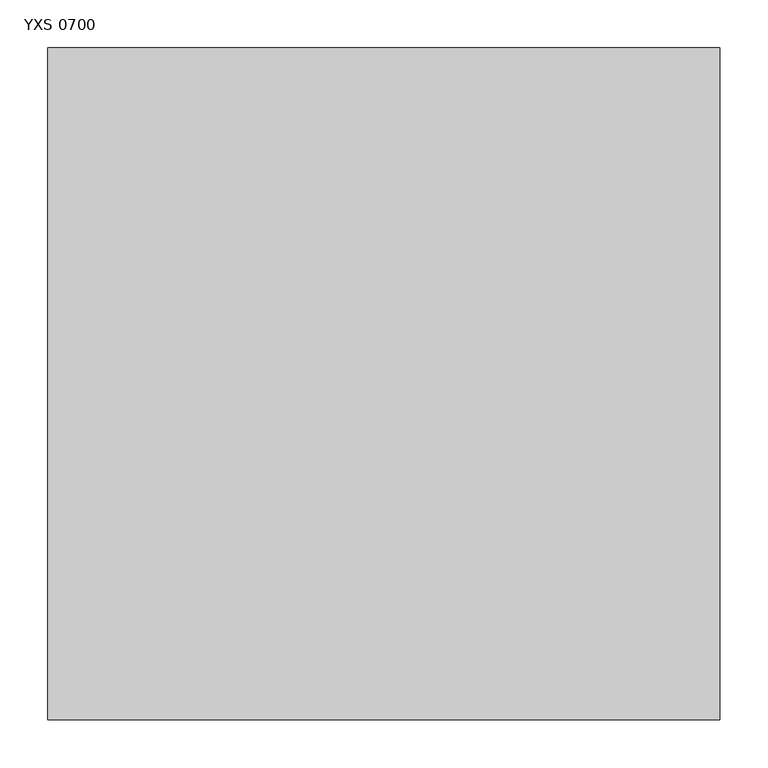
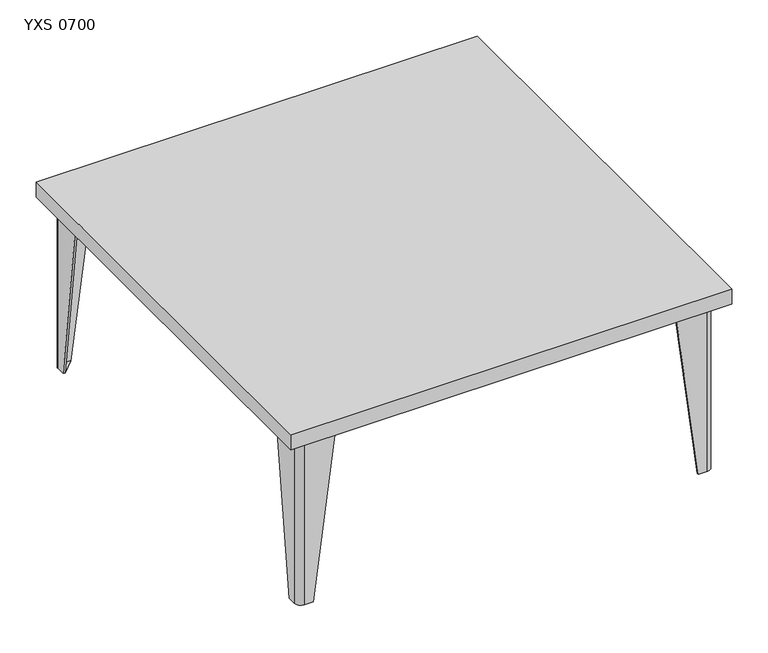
"""IFC4 building model written with IfcOpenShell, lengths in millimetres: furniture geometry, Mobiliário_Mobiliário de Escritório_LinhaYoung_Mesa Baixa YXS 0700_Marelli : YXS 0700."""

import ifcopenshell
import ifcopenshell.guid

model = None  # the IFC model being written
_history = None  # IfcOwnerHistory: only IFC2X3 demands one
_inside = {}  # id of a spatial element -> (the spatial element, [elements in it])
_under = {}  # id of a project, library or spatial element -> (it, [spatial elements below it])
_declared = {}  # id of a project -> (the project, [libraries it declares])
_typed = {}  # id of a type object -> (the type object, [elements of that type])
_made_of = {}  # id of a material, layer set ... -> (it, [elements and type objects made of it])


def new_model(schema):
    """Start an empty IFC model of exactly this schema.

    Asked for "IFC4X3", IfcOpenShell would pick the latest addendum, in which some entities
    have other attributes; the version numbers below select the first issue.
    IFC2X3 requires an IfcOwnerHistory on every rooted entity: one is made here for all.
    """
    global model, _history
    if schema == "IFC4X3":
        model = ifcopenshell.file(schema_version=(4, 3, 0, 0))
    else:
        model = ifcopenshell.file(schema=schema)
    _inside.clear()
    _under.clear()
    _declared.clear()
    _typed.clear()
    _made_of.clear()
    _history = None
    if model.schema == "IFC2X3":
        org = make("IfcOrganization", Name="unknown")
        user = make(
            "IfcPersonAndOrganization",
            ThePerson=make("IfcPerson", FamilyName="unknown"),
            TheOrganization=org,
        )
        app = make(
            "IfcApplication",
            ApplicationDeveloper=org,
            Version="unknown",
            ApplicationFullName="unknown",
            ApplicationIdentifier="unknown",
        )
        _history = make(
            "IfcOwnerHistory",
            OwningUser=user,
            OwningApplication=app,
            ChangeAction="ADDED",
            CreationDate=0,
        )
    return model


def make(cls, **values):
    """One entity of the class cls with the attributes given. An attribute that is None is left unset."""
    return model.create_entity(
        cls, **{name: value for name, value in values.items() if value is not None}
    )


def rooted(cls, **values):
    """An entity with a GlobalId (a new one), such as an element, a storey or a relation."""
    return make(cls, GlobalId=ifcopenshell.guid.new(), OwnerHistory=_history, **values)


def si_unit(unit_type, name, prefix=None):
    """IfcSIUnit, for example si_unit("LENGTHUNIT", "METRE", prefix="MILLI")."""
    return make("IfcSIUnit", UnitType=unit_type, Prefix=prefix, Name=name)


def assignment(units):
    """IfcUnitAssignment: the units of a project."""
    return None if units is None else make("IfcUnitAssignment", Units=units)


def point(xyz):
    """IfcCartesianPoint."""
    return None if xyz is None else make("IfcCartesianPoint", Coordinates=xyz)


def direction(xyz):
    """IfcDirection."""
    return None if xyz is None else make("IfcDirection", DirectionRatios=xyz)


def frame(location, z_axis=None, x_axis=None):
    """IfcAxis2Placement3D, a coordinate frame: its origin and axes. An axis left out is left unset."""
    return make(
        "IfcAxis2Placement3D",
        Location=point(location),
        Axis=direction(z_axis),
        RefDirection=direction(x_axis),
    )


def frame_2d(location, x_axis=None):
    """IfcAxis2Placement2D, a coordinate frame in the plane: its origin and x axis."""
    return make(
        "IfcAxis2Placement2D", Location=point(location), RefDirection=direction(x_axis)
    )


def origin():
    """The frame at (0, 0, 0) with its axes left unset."""
    return frame((0.0, 0.0, 0.0))


def origin_with_axes():
    """The frame at (0, 0, 0) with the z axis (0, 0, 1) and the x axis (1, 0, 0) written out."""
    return frame((0.0, 0.0, 0.0), z_axis=(0.0, 0.0, 1.0), x_axis=(1.0, 0.0, 0.0))


def place(relative_to, where):
    """IfcLocalPlacement: puts the frame where relative to a parent placement (None: the world)."""
    return make(
        "IfcLocalPlacement", PlacementRelTo=relative_to, RelativePlacement=where
    )


def context(
    kind, dimensions, precision=None, world=None, true_north=None, identifier=None
):
    """IfcGeometricRepresentationContext, for example the 3D "Model" context."""
    return make(
        "IfcGeometricRepresentationContext",
        ContextIdentifier=identifier,
        ContextType=kind,
        CoordinateSpaceDimension=dimensions,
        Precision=precision,
        WorldCoordinateSystem=world,
        TrueNorth=true_north,
    )


def project(units=None, contexts=None):
    """IfcProject with its units and contexts."""
    return rooted(
        "IfcProject",
        Name="project",
        RepresentationContexts=contexts,
        UnitsInContext=assignment(units),
    )


def spatial(cls, under=None, at=None, **own):
    """A site, building, storey or space (cls), placed at a placement, below another one or the project."""
    s = rooted(cls, ObjectPlacement=at, **own)
    if under is not None:
        _under.setdefault(under.id(), (under, []))[1].append(s)
    return s


def polyline(points):
    """IfcPolyline through the points."""
    return make("IfcPolyline", Points=[point(p) for p in points])


def circle_curve(where, radius):
    """IfcCircle in the frame where."""
    return make("IfcCircle", Position=where, Radius=radius)


def trimmed(basis, trim1, trim2, sense, master):
    """IfcTrimmedCurve: the piece of a basis curve between two trims."""
    return make(
        "IfcTrimmedCurve",
        BasisCurve=basis,
        Trim1=trim1,
        Trim2=trim2,
        SenseAgreement=sense,
        MasterRepresentation=master,
    )


def segment(curve, same_sense, transition):
    """IfcCompositeCurveSegment."""
    return make(
        "IfcCompositeCurveSegment",
        Transition=transition,
        SameSense=same_sense,
        ParentCurve=curve,
    )


def composite_curve(segments, self_intersect=None):
    """IfcCompositeCurve: segments joined end to end."""
    return make("IfcCompositeCurve", Segments=segments, SelfIntersect=self_intersect)


def outline(outer, holes=None, kind="AREA"):
    """IfcArbitraryClosedProfileDef: a profile drawn as a closed curve; with holes, ...WithVoids."""
    if holes is None:
        return make("IfcArbitraryClosedProfileDef", ProfileType=kind, OuterCurve=outer)
    return make(
        "IfcArbitraryProfileDefWithVoids",
        ProfileType=kind,
        OuterCurve=outer,
        InnerCurves=holes,
    )


def extrude(swept, where, along, depth):
    """IfcExtrudedAreaSolid: the profile swept, set in the frame where, extruded along a direction by depth."""
    return make(
        "IfcExtrudedAreaSolid",
        SweptArea=swept,
        Position=where,
        ExtrudedDirection=direction(along),
        Depth=depth,
    )


def shape(context_of_items, identifier, shape_type, items):
    """IfcShapeRepresentation: the items that make up one representation, for example the "Body"."""
    return make(
        "IfcShapeRepresentation",
        ContextOfItems=context_of_items,
        RepresentationIdentifier=identifier,
        RepresentationType=shape_type,
        Items=items,
    )


def source(mapping_origin, context_of_items, identifier, shape_type, items):
    """IfcRepresentationMap: a shape defined once, which mapped items show again and again."""
    return make(
        "IfcRepresentationMap",
        MappingOrigin=mapping_origin,
        MappedRepresentation=shape(context_of_items, identifier, shape_type, items),
    )


def transform(
    local_origin,
    x_axis=None,
    y_axis=None,
    z_axis=None,
    scale=None,
    scale2=None,
    scale3=None,
    uniform=True,
):
    """IfcCartesianTransformationOperator3D, or its non-uniform kind. x_axis, y_axis, z_axis: its Axis1, 2, 3."""
    if uniform:
        return make(
            "IfcCartesianTransformationOperator3D",
            Axis1=direction(x_axis),
            Axis2=direction(y_axis),
            LocalOrigin=point(local_origin),
            Scale=scale,
            Axis3=direction(z_axis),
        )
    return make(
        "IfcCartesianTransformationOperator3DnonUniform",
        Axis1=direction(x_axis),
        Axis2=direction(y_axis),
        LocalOrigin=point(local_origin),
        Scale=scale,
        Axis3=direction(z_axis),
        Scale2=scale2,
        Scale3=scale3,
    )


def mapped(mapping_source, mapping_target):
    """IfcMappedItem: shows the shape of a source again, moved by a transform."""
    return make(
        "IfcMappedItem", MappingSource=mapping_source, MappingTarget=mapping_target
    )


def made_of(thing, what):
    """Note that an element or type object is made of a material, layer set ...; save() writes the relation."""
    if what is not None:
        _made_of.setdefault(what.id(), (what, []))[1].append(thing)
    return thing


def element(
    cls,
    number,
    at=None,
    inside=None,
    cuts=None,
    type_object=None,
    material=None,
    context=None,
    identifier="Body",
    shape_type=None,
    held_by="IfcProductDefinitionShape",
    body=None,
    shapes=None,
    **own,
):
    """One element of the class cls, such as IfcWall. Its Tag is "e" and its number.

    at: its placement. inside: the storey or other place that contains it. cuts: it is an
    opening in that element (IfcRelVoidsElement). A single representation is given by context,
    identifier, shape_type and body (its items); several are given by shapes. held_by: the class
    of the entity that holds the representations. save() writes the other relations.
    """
    e = rooted(cls, Tag="e%d" % number, ObjectPlacement=at, **own)
    if body is not None:
        shapes = [shape(context, identifier, shape_type, body)]
    if shapes is not None:
        e.Representation = make(held_by, Representations=shapes)
    if inside is not None:
        _inside.setdefault(inside.id(), (inside, []))[1].append(e)
    if cuts is not None:
        rooted(
            "IfcRelVoidsElement", RelatingBuildingElement=cuts, RelatedOpeningElement=e
        )
    if type_object is not None:
        _typed.setdefault(type_object.id(), (type_object, []))[1].append(e)
    return made_of(e, material)


def aggregate(whole, parts):
    """IfcRelAggregates: a whole, such as a stair, and the parts it consists of."""
    return rooted("IfcRelAggregates", RelatingObject=whole, RelatedObjects=parts)


def save(model, path):
    """Write the relations noted so far, then the file.

    IfcRelAggregates (storeys below a building ...), IfcRelContainedInSpatialStructure (elements
    in a storey), IfcRelDefinesByType, IfcRelAssociatesMaterial and IfcRelDeclares: one each for
    every whole, place, type object, material and project.
    """
    for whole, parts in _under.values():
        aggregate(whole, parts)
    for where, things in _inside.values():
        rooted(
            "IfcRelContainedInSpatialStructure",
            RelatedElements=things,
            RelatingStructure=where,
        )
    for kind, things in _typed.values():
        rooted("IfcRelDefinesByType", RelatedObjects=things, RelatingType=kind)
    for what, things in _made_of.values():
        rooted("IfcRelAssociatesMaterial", RelatedObjects=things, RelatingMaterial=what)
    for by, libraries in _declared.values():
        rooted("IfcRelDeclares", RelatingContext=by, RelatedDefinitions=libraries)
    model.write(path)


def plane_surface(at):
    """IfcPlane: the flat surface through the origin of the frame at, square to its z axis."""
    return make("IfcPlane", Position=at)


def cylinder_surface(at, radius):
    """IfcCylindricalSurface: all points at the distance radius from the z axis of the frame at."""
    return make("IfcCylindricalSurface", Position=at, Radius=radius)


def revolved_surface(curve, axis_point, axis_direction):
    """IfcSurfaceOfRevolution: the curve turned about the line through axis_point along axis_direction."""
    return make(
        "IfcSurfaceOfRevolution",
        SweptCurve=make("IfcArbitraryOpenProfileDef", ProfileType="CURVE", Curve=curve),
        AxisPosition=make("IfcAxis1Placement", Location=point(axis_point), Axis=direction(axis_direction)),
    )


def advanced_brep(points, edges, surfaces, faces):
    """IfcAdvancedBrep: a solid bounded by faces that lie on surfaces and meet in shared edges.

    An edge is (start, end): straight between two places in points (the first is 0);
    or (start, end, curve); or (start, end, curve, False) where it runs against its curve.
    A face is (place in surfaces, loops), or (place, loops, False) where it looks against
    its surface's normal. A loop lists edges by number (the first is 1), with a minus sign
    where the edge is run from its end to its start. The first loop is the outer one.
    """
    corners = [point(p) for p in points]
    vertices = [make("IfcVertexPoint", VertexGeometry=c) for c in corners]
    made = []
    for start, end, *more in edges:
        made.append(
            make(
                "IfcEdgeCurve",
                EdgeStart=vertices[start],
                EdgeEnd=vertices[end],
                EdgeGeometry=more[0] if more else make("IfcPolyline", Points=[corners[start], corners[end]]),
                SameSense=more[1] if len(more) > 1 else True,
            )
        )
    hull = []
    for where, loops, *sense in faces:
        bounds = []
        for j, loop in enumerate(loops):
            ring = [make("IfcOrientedEdge", EdgeElement=made[abs(k) - 1], Orientation=k > 0) for k in loop]
            bounds.append(
                make(
                    "IfcFaceOuterBound" if j == 0 else "IfcFaceBound",
                    Bound=make("IfcEdgeLoop", EdgeList=ring),
                    Orientation=True,
                )
            )
        hull.append(make("IfcAdvancedFace", Bounds=bounds, FaceSurface=surfaces[where], SameSense=sense[0] if sense else True))
    return make("IfcAdvancedBrep", Outer=make("IfcClosedShell", CfsFaces=hull))


def yxs_0700_424be534(model_context):
    return source(origin(), model_context, "Body", "SolidModel", [
        extrude(outline(polyline([(700.0, 0.0), (0.0, 0.0), (0.0, 700.0), (700.0, 700.0), (700.0, 0.0)])), frame((0.0, 0.0, 280.0), z_axis=(0.0, 0.0, 1.0), x_axis=(1.0, 0.0, 0.0)), (0.0, 0.0, 1.0), 25.0),
        advanced_brep(
        [(20.0, 75.0, 280.0), (20.0, 25.0, 280.0), (30.0, 15.0, 280.0), (80.0, 15.0, 280.0), (80.0, 18.0, 280.0), (30.0, 18.0, 280.0), (23.0, 25.0, 280.0), (23.0, 75.0, 280.0), (20.0, 39.0, 0.0), (23.0, 39.0, 0.0), (23.0, 25.0, 0.0), (30.0, 18.0, 0.0), (44.0, 18.0, 0.0), (44.0, 15.0, 0.0), (30.0, 15.0, 0.0), (20.0, 25.0, 0.0)],
        [
            (0, 1),
            (1, 2, circle_curve(frame((30.0, 25.0, 280.0), z_axis=(0.0, 0.0, 1.0), x_axis=(0.0, -1.0, 0.0)), 10.0)),
            (2, 3),
            (3, 4),
            (4, 5),
            (5, 6, circle_curve(frame((30.0, 25.0, 280.0), z_axis=(0.0, 0.0, -1.0), x_axis=(-1.0, 0.0, 0.0)), 7.0)),
            (6, 7),
            (7, 0),
            (8, 9),
            (9, 10),
            (10, 11, circle_curve(frame((30.0, 25.0, 0.0), z_axis=(0.0, 0.0, 1.0), x_axis=(-1.0, 0.0, 0.0)), 7.0)),
            (11, 12),
            (12, 13),
            (13, 14),
            (14, 15, circle_curve(frame((30.0, 25.0, 0.0), z_axis=(0.0, 0.0, -1.0), x_axis=(0.0, -1.0, 0.0)), 10.0)),
            (15, 8),
            (15, 1),
            (0, 8),
            (14, 2),
            (13, 3),
            (12, 4),
            (11, 5),
            (10, 6),
            (9, 7),
        ],
        [
            plane_surface(frame((38.25, 33.25, 280.0), z_axis=(0.0, 0.0, 1.0), x_axis=(0.0, -1.0, 0.0))),
            plane_surface(frame((29.25, 24.25, 0.0), z_axis=(0.0, 0.0, -1.0), x_axis=(0.0, -1.0, 0.0))),
            plane_surface(frame((20.0, 32.0, 0.0), z_axis=(-1.0, 0.0, 0.0), x_axis=(0.0, -1.0, 0.0))),
            cylinder_surface(frame((30.0, 25.0, 0.0), z_axis=(0.0, 0.0, 1.0), x_axis=(0.0, -1.0, 0.0)), 10.0),
            plane_surface(frame((37.0, 15.0, 0.0), z_axis=(0.0, -1.0, 0.0), x_axis=(1.0, 0.0, 0.0))),
            plane_surface(frame((44.0, 16.5, 0.0), z_axis=(0.9918357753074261, 0.0, -0.12752174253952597), x_axis=(0.0, 1.0, 0.0))),
            plane_surface(frame((37.0, 18.0, 0.0), z_axis=(0.0, 1.0, 0.0), x_axis=(-1.0, 0.0, 0.0))),
            revolved_surface(polyline([(23.0, 25.0, 280.0), (23.0, 25.0, 0.0)]), (30.0, 25.0, 0.0), (0.0, 0.0, 1.0)),
            plane_surface(frame((23.0, 32.0, 0.0), z_axis=(1.0, 0.0, 0.0), x_axis=(0.0, 1.0, 0.0))),
            plane_surface(frame((21.5, 39.0, 0.0), z_axis=(0.0, 0.9918357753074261, -0.12752174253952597), x_axis=(-1.0, 0.0, 0.0))),
        ],
        [
            (0, [[1, 2, 3, 4, 5, 6, 7, 8]]),
            (1, [[9, 10, 11, 12, 13, 14, 15, 16]]),
            (2, [[-16, 17, -1, 18]]),
            (3, [[-15, 19, -2, -17]]),
            (4, [[-14, 20, -3, -19]]),
            (5, [[-13, 21, -4, -20]]),
            (6, [[-12, 22, -5, -21]]),
            (7, [[-11, 23, -6, -22]]),
            (8, [[-10, 24, -7, -23]]),
            (9, [[-9, -18, -8, -24]]),
        ],
    ),
        advanced_brep(
        [(680.0, 75.0, 280.0), (677.0, 75.0, 280.0), (677.0, 25.0, 280.0), (670.0, 18.0, 280.0), (620.0, 18.0, 280.0), (620.0, 15.0, 280.0), (670.0, 15.0, 280.0), (680.0, 25.0, 280.0), (680.0, 39.0, 0.0), (680.0, 25.0, 0.0), (670.0, 15.0, 0.0), (656.0, 15.0, 0.0), (656.0, 18.0, 0.0), (670.0, 18.0, 0.0), (677.0, 25.0, 0.0), (677.0, 39.0, 0.0)],
        [
            (0, 1),
            (1, 2),
            (2, 3, circle_curve(frame((670.0, 25.0, 280.0), z_axis=(0.0, 0.0, -1.0), x_axis=(0.0, -1.0, 0.0)), 7.0)),
            (3, 4),
            (4, 5),
            (5, 6),
            (6, 7, circle_curve(frame((670.0, 25.0, 280.0), z_axis=(0.0, 0.0, 1.0), x_axis=(1.0, 0.0, 0.0)), 10.0)),
            (7, 0),
            (8, 9),
            (9, 10, circle_curve(frame((670.0, 25.0, 0.0), z_axis=(0.0, 0.0, -1.0), x_axis=(1.0, 0.0, 0.0)), 10.0)),
            (10, 11),
            (11, 12),
            (12, 13),
            (13, 14, circle_curve(frame((670.0, 25.0, 0.0), z_axis=(0.0, 0.0, 1.0), x_axis=(0.0, -1.0, 0.0)), 7.0)),
            (14, 15),
            (15, 8),
            (8, 0),
            (7, 9),
            (6, 10),
            (5, 11),
            (4, 12),
            (3, 13),
            (2, 14),
            (1, 15),
        ],
        [
            plane_surface(frame((661.75, 33.25, 280.0), z_axis=(0.0, 0.0, 1.0), x_axis=(-1.0, 0.0, 0.0))),
            plane_surface(frame((670.75, 24.25, 0.0), z_axis=(0.0, 0.0, -1.0), x_axis=(-1.0, 0.0, 0.0))),
            plane_surface(frame((680.0, 32.0, 0.0), z_axis=(1.0, 0.0, 0.0), x_axis=(0.0, 1.0, 0.0))),
            cylinder_surface(frame((670.0, 25.0, 0.0), z_axis=(0.0, 0.0, 1.0), x_axis=(1.0, 0.0, 0.0)), 10.0),
            plane_surface(frame((663.0, 15.0, 0.0), z_axis=(0.0, -1.0, 0.0), x_axis=(1.0, 0.0, 0.0))),
            plane_surface(frame((656.0, 16.5, 0.0), z_axis=(-0.9918357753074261, 0.0, -0.127521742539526), x_axis=(0.0, -1.0, 0.0))),
            plane_surface(frame((663.0, 18.0, 0.0), z_axis=(0.0, 1.0, 0.0), x_axis=(-1.0, 0.0, 0.0))),
            revolved_surface(polyline([(670.0, 18.0, 280.0), (670.0, 18.0, 0.0)]), (670.0, 25.0, 0.0), (0.0, 0.0, 1.0)),
            plane_surface(frame((677.0, 32.0, 0.0), z_axis=(-1.0, 0.0, 0.0), x_axis=(0.0, -1.0, 0.0))),
            plane_surface(frame((678.5, 39.0, 0.0), z_axis=(0.0, 0.9918357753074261, -0.12752174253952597), x_axis=(-1.0, 0.0, 0.0))),
        ],
        [
            (0, [[1, 2, 3, 4, 5, 6, 7, 8]]),
            (1, [[9, 10, 11, 12, 13, 14, 15, 16]]),
            (2, [[-9, 17, -8, 18]]),
            (3, [[-10, -18, -7, 19]]),
            (4, [[-11, -19, -6, 20]]),
            (5, [[-12, -20, -5, 21]]),
            (6, [[-13, -21, -4, 22]]),
            (7, [[-14, -22, -3, 23]]),
            (8, [[-15, -23, -2, 24]]),
            (9, [[-16, -24, -1, -17]]),
        ],
    ),
        advanced_brep(
        [(20.0, 625.0, 280.0), (23.0, 625.0, 280.0), (23.0, 675.0, 280.0), (30.0, 682.0, 280.0), (80.0, 682.0, 280.0), (80.0, 685.0, 280.0), (30.0, 685.0, 280.0), (20.0, 675.0, 280.0), (20.0, 661.0, 0.0), (20.0, 675.0, 0.0), (30.0, 685.0, 0.0), (44.0, 685.0, 0.0), (44.0, 682.0, 0.0), (30.0, 682.0, 0.0), (23.0, 675.0, 0.0), (23.0, 661.0, 0.0)],
        [
            (0, 1),
            (1, 2),
            (2, 3, circle_curve(frame((30.0, 675.0, 280.0), z_axis=(0.0, 0.0, -1.0), x_axis=(0.0, 1.0, 0.0)), 7.0)),
            (3, 4),
            (4, 5),
            (5, 6),
            (6, 7, circle_curve(frame((30.0, 675.0, 280.0), z_axis=(0.0, 0.0, 1.0), x_axis=(-1.0, 0.0, 0.0)), 10.0)),
            (7, 0),
            (8, 9),
            (9, 10, circle_curve(frame((30.0, 675.0, 0.0), z_axis=(0.0, 0.0, -1.0), x_axis=(-1.0, 0.0, 0.0)), 10.0)),
            (10, 11),
            (11, 12),
            (12, 13),
            (13, 14, circle_curve(frame((30.0, 675.0, 0.0), z_axis=(0.0, 0.0, 1.0), x_axis=(0.0, 1.0, 0.0)), 7.0)),
            (14, 15),
            (15, 8),
            (8, 0),
            (7, 9),
            (6, 10),
            (5, 11),
            (4, 12),
            (3, 13),
            (2, 14),
            (1, 15),
        ],
        [
            plane_surface(frame((38.25, 666.75, 280.0), z_axis=(0.0, 0.0, 1.0), x_axis=(1.0, 0.0, 0.0))),
            plane_surface(frame((29.25, 675.75, 0.0), z_axis=(0.0, 0.0, -1.0), x_axis=(1.0, 0.0, 0.0))),
            plane_surface(frame((20.0, 668.0, 0.0), z_axis=(-1.0, 0.0, 0.0), x_axis=(0.0, -1.0, 0.0))),
            cylinder_surface(frame((30.0, 675.0, 0.0), z_axis=(0.0, 0.0, 1.0), x_axis=(-1.0, 0.0, 0.0)), 10.0),
            plane_surface(frame((37.0, 685.0, 0.0), z_axis=(0.0, 1.0, 0.0), x_axis=(-1.0, 0.0, 0.0))),
            plane_surface(frame((44.0, 683.5, 0.0), z_axis=(0.9918357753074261, 0.0, -0.12752174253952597), x_axis=(0.0, 1.0, 0.0))),
            plane_surface(frame((37.0, 682.0, 0.0), z_axis=(0.0, -1.0, 0.0), x_axis=(1.0, 0.0, 0.0))),
            revolved_surface(polyline([(30.0, 682.0, 280.0), (30.0, 682.0, 0.0)]), (30.0, 675.0, 0.0), (0.0, 0.0, 1.0)),
            plane_surface(frame((23.0, 668.0, 0.0), z_axis=(1.0, 0.0, 0.0), x_axis=(0.0, 1.0, 0.0))),
            plane_surface(frame((21.5, 661.0, 0.0), z_axis=(0.0, -0.9918357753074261, -0.127521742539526), x_axis=(1.0, 0.0, 0.0))),
        ],
        [
            (0, [[1, 2, 3, 4, 5, 6, 7, 8]]),
            (1, [[9, 10, 11, 12, 13, 14, 15, 16]]),
            (2, [[-9, 17, -8, 18]]),
            (3, [[-10, -18, -7, 19]]),
            (4, [[-11, -19, -6, 20]]),
            (5, [[-12, -20, -5, 21]]),
            (6, [[-13, -21, -4, 22]]),
            (7, [[-14, -22, -3, 23]]),
            (8, [[-15, -23, -2, 24]]),
            (9, [[-16, -24, -1, -17]]),
        ],
    ),
        advanced_brep(
        [(680.0, 625.0, 280.0), (680.0, 675.0, 280.0), (670.0, 685.0, 280.0), (620.0, 685.0, 280.0), (620.0, 682.0, 280.0), (670.0, 682.0, 280.0), (677.0, 675.0, 280.0), (677.0, 625.0, 280.0), (680.0, 661.0, 0.0), (677.0, 661.0, 0.0), (677.0, 675.0, 0.0), (670.0, 682.0, 0.0), (656.0, 682.0, 0.0), (656.0, 685.0, 0.0), (670.0, 685.0, 0.0), (680.0, 675.0, 0.0)],
        [
            (0, 1),
            (1, 2, circle_curve(frame((670.0, 675.0, 280.0), z_axis=(0.0, 0.0, 1.0), x_axis=(0.0, 1.0, 0.0)), 10.0)),
            (2, 3),
            (3, 4),
            (4, 5),
            (5, 6, circle_curve(frame((670.0, 675.0, 280.0), z_axis=(0.0, 0.0, -1.0), x_axis=(1.0, 0.0, 0.0)), 7.0)),
            (6, 7),
            (7, 0),
            (8, 9),
            (9, 10),
            (10, 11, circle_curve(frame((670.0, 675.0, 0.0), z_axis=(0.0, 0.0, 1.0), x_axis=(1.0, 0.0, 0.0)), 7.0)),
            (11, 12),
            (12, 13),
            (13, 14),
            (14, 15, circle_curve(frame((670.0, 675.0, 0.0), z_axis=(0.0, 0.0, -1.0), x_axis=(0.0, 1.0, 0.0)), 10.0)),
            (15, 8),
            (15, 1),
            (0, 8),
            (14, 2),
            (13, 3),
            (12, 4),
            (11, 5),
            (10, 6),
            (9, 7),
        ],
        [
            plane_surface(frame((661.75, 666.75, 280.0), z_axis=(0.0, 0.0, 1.0), x_axis=(0.0, 1.0, 0.0))),
            plane_surface(frame((670.75, 675.75, 0.0), z_axis=(0.0, 0.0, -1.0), x_axis=(0.0, 1.0, 0.0))),
            plane_surface(frame((680.0, 668.0, 0.0), z_axis=(1.0, 0.0, 0.0), x_axis=(0.0, 1.0, 0.0))),
            cylinder_surface(frame((670.0, 675.0, 0.0), z_axis=(0.0, 0.0, 1.0), x_axis=(0.0, 1.0, 0.0)), 10.0),
            plane_surface(frame((663.0, 685.0, 0.0), z_axis=(0.0, 1.0, 0.0), x_axis=(-1.0, 0.0, 0.0))),
            plane_surface(frame((656.0, 683.5, 0.0), z_axis=(-0.9918357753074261, 0.0, -0.127521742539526), x_axis=(0.0, -1.0, 0.0))),
            plane_surface(frame((663.0, 682.0, 0.0), z_axis=(0.0, -1.0, 0.0), x_axis=(1.0, 0.0, 0.0))),
            revolved_surface(polyline([(677.0, 675.0, 280.0), (677.0, 675.0, 0.0)]), (670.0, 675.0, 0.0), (0.0, 0.0, 1.0)),
            plane_surface(frame((677.0, 668.0, 0.0), z_axis=(-1.0, 0.0, 0.0), x_axis=(0.0, -1.0, 0.0))),
            plane_surface(frame((678.5, 661.0, 0.0), z_axis=(0.0, -0.9918357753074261, -0.127521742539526), x_axis=(1.0, 0.0, 0.0))),
        ],
        [
            (0, [[1, 2, 3, 4, 5, 6, 7, 8]]),
            (1, [[9, 10, 11, 12, 13, 14, 15, 16]]),
            (2, [[-16, 17, -1, 18]]),
            (3, [[-15, 19, -2, -17]]),
            (4, [[-14, 20, -3, -19]]),
            (5, [[-13, 21, -4, -20]]),
            (6, [[-12, 22, -5, -21]]),
            (7, [[-11, 23, -6, -22]]),
            (8, [[-10, 24, -7, -23]]),
            (9, [[-9, -18, -8, -24]]),
        ],
    ),
        extrude(outline(composite_curve([segment(polyline([(23.0, 39.0), (44.0, 18.0), (30.0, 18.0)]), True, "CONTINUOUS"), segment(trimmed(circle_curve(frame_2d((30.0, 25.0)), 7.0), [point((30.0, 18.0))], [point((23.0, 25.0))], False, "CARTESIAN"), True, "CONTINUOUS"), segment(polyline([(23.0, 25.0), (23.0, 39.0)]), True, "CONTINUOUS")], self_intersect=False)), origin_with_axes(), (0.0, 0.0, 1.0), 1.0),
        extrude(outline(composite_curve([segment(polyline([(23.0, 661.0), (23.0, 675.0)]), True, "CONTINUOUS"), segment(trimmed(circle_curve(frame_2d((30.0, 675.0)), 7.0), [point((23.0, 675.0))], [point((30.0, 682.0))], False, "CARTESIAN"), True, "CONTINUOUS"), segment(polyline([(30.0, 682.0), (44.0, 682.0), (23.0, 661.0)]), True, "CONTINUOUS")], self_intersect=False)), origin_with_axes(), (0.0, 0.0, 1.0), 1.0),
        extrude(outline(composite_curve([segment(polyline([(677.0, 39.0), (677.0, 25.0)]), True, "CONTINUOUS"), segment(trimmed(circle_curve(frame_2d((670.0, 25.0)), 7.0), [point((677.0, 25.0))], [point((670.0, 18.0))], False, "CARTESIAN"), True, "CONTINUOUS"), segment(polyline([(670.0, 18.0), (656.0, 18.0), (677.0, 39.0)]), True, "CONTINUOUS")], self_intersect=False)), origin_with_axes(), (0.0, 0.0, 1.0), 1.0),
        extrude(outline(composite_curve([segment(polyline([(677.0, 661.0), (656.0, 682.0), (670.0, 682.0)]), True, "CONTINUOUS"), segment(trimmed(circle_curve(frame_2d((670.0, 675.0)), 7.0), [point((670.0, 682.0))], [point((677.0, 675.0))], False, "CARTESIAN"), True, "CONTINUOUS"), segment(polyline([(677.0, 675.0), (677.0, 661.0)]), True, "CONTINUOUS")], self_intersect=False)), origin_with_axes(), (0.0, 0.0, 1.0), 1.0),
        extrude(outline(composite_curve([segment(trimmed(circle_curve(frame_2d((30.0, 25.0)), 7.0), [point((30.0, 18.0))], [point((23.0, 25.0))], False, "CARTESIAN"), True, "CONTINUOUS"), segment(polyline([(23.0, 25.0), (23.0, 93.0)]), True, "CONTINUOUS"), segment(trimmed(circle_curve(frame_2d((28.0, 93.0)), 5.0), [point((23.0, 93.0))], [point((28.0, 98.0))], False, "CARTESIAN"), True, "CONTINUOUS"), segment(polyline([(28.0, 98.0), (51.9545624, 98.0)]), True, "CONTINUOUS"), segment(trimmed(circle_curve(frame_2d((52.6241051, 89.931755)), 8.0959783), [point((51.9545624, 98.0))], [point((58.520382, 95.479618))], False, "CARTESIAN"), True, "CONTINUOUS"), segment(polyline([(58.520382, 95.479618), (100.479618, 53.520382)]), True, "CONTINUOUS"), segment(trimmed(circle_curve(frame_2d((94.931755, 47.6241051)), 8.0959783), [point((100.479618, 53.520382))], [point((103.0, 46.9545624))], False, "CARTESIAN"), True, "CONTINUOUS"), segment(polyline([(103.0, 46.9545624), (103.0, 23.0)]), True, "CONTINUOUS"), segment(trimmed(circle_curve(frame_2d((98.0, 23.0)), 5.0), [point((103.0, 23.0))], [point((98.0, 18.0))], False, "CARTESIAN"), True, "CONTINUOUS"), segment(polyline([(98.0, 18.0), (30.0, 18.0)]), True, "CONTINUOUS")], self_intersect=False)), frame((0.0, 0.0, 279.0), z_axis=(0.0, 0.0, 1.0), x_axis=(1.0, 0.0, 0.0)), (0.0, 0.0, 1.0), 1.0),
        extrude(outline(composite_curve([segment(polyline([(30.0, 682.0), (98.0, 682.0)]), True, "CONTINUOUS"), segment(trimmed(circle_curve(frame_2d((98.0, 677.0)), 5.0), [point((98.0, 682.0))], [point((103.0, 677.0))], False, "CARTESIAN"), True, "CONTINUOUS"), segment(polyline([(103.0, 677.0), (103.0, 653.0454376)]), True, "CONTINUOUS"), segment(trimmed(circle_curve(frame_2d((94.931755, 652.3758949)), 8.0959783), [point((103.0, 653.0454376))], [point((100.479618, 646.479618))], False, "CARTESIAN"), True, "CONTINUOUS"), segment(polyline([(100.479618, 646.479618), (58.520382, 604.520382)]), True, "CONTINUOUS"), segment(trimmed(circle_curve(frame_2d((52.6241051, 610.068245)), 8.0959783), [point((58.520382, 604.520382))], [point((51.9545624, 602.0))], False, "CARTESIAN"), True, "CONTINUOUS"), segment(polyline([(51.9545624, 602.0), (28.0, 602.0)]), True, "CONTINUOUS"), segment(trimmed(circle_curve(frame_2d((28.0, 607.0)), 5.0), [point((28.0, 602.0))], [point((23.0, 607.0))], False, "CARTESIAN"), True, "CONTINUOUS"), segment(polyline([(23.0, 607.0), (23.0, 675.0)]), True, "CONTINUOUS"), segment(trimmed(circle_curve(frame_2d((30.0, 675.0)), 7.0), [point((23.0, 675.0))], [point((30.0, 682.0))], False, "CARTESIAN"), True, "CONTINUOUS")], self_intersect=False)), frame((0.0, 0.0, 279.0), z_axis=(0.0, 0.0, 1.0), x_axis=(1.0, 0.0, 0.0)), (0.0, 0.0, 1.0), 1.0),
        extrude(outline(composite_curve([segment(polyline([(670.0, 18.0), (602.0, 18.0)]), True, "CONTINUOUS"), segment(trimmed(circle_curve(frame_2d((602.0, 23.0)), 5.0), [point((602.0, 18.0))], [point((597.0, 23.0))], False, "CARTESIAN"), True, "CONTINUOUS"), segment(polyline([(597.0, 23.0), (597.0, 46.9545624)]), True, "CONTINUOUS"), segment(trimmed(circle_curve(frame_2d((605.068245, 47.6241051)), 8.0959783), [point((597.0, 46.9545624))], [point((599.520382, 53.520382))], False, "CARTESIAN"), True, "CONTINUOUS"), segment(polyline([(599.520382, 53.520382), (641.479618, 95.479618)]), True, "CONTINUOUS"), segment(trimmed(circle_curve(frame_2d((647.3758949, 89.931755)), 8.0959783), [point((641.479618, 95.479618))], [point((648.0454376, 98.0))], False, "CARTESIAN"), True, "CONTINUOUS"), segment(polyline([(648.0454376, 98.0), (672.0, 98.0)]), True, "CONTINUOUS"), segment(trimmed(circle_curve(frame_2d((672.0, 93.0)), 5.0), [point((672.0, 98.0))], [point((677.0, 93.0))], False, "CARTESIAN"), True, "CONTINUOUS"), segment(polyline([(677.0, 93.0), (677.0, 25.0)]), True, "CONTINUOUS"), segment(trimmed(circle_curve(frame_2d((670.0, 25.0)), 7.0), [point((677.0, 25.0))], [point((670.0, 18.0))], False, "CARTESIAN"), True, "CONTINUOUS")], self_intersect=False)), frame((0.0, 0.0, 279.0), z_axis=(0.0, 0.0, 1.0), x_axis=(1.0, 0.0, 0.0)), (0.0, 0.0, 1.0), 1.0),
        extrude(outline(composite_curve([segment(trimmed(circle_curve(frame_2d((670.0, 675.0)), 7.0), [point((670.0, 682.0))], [point((677.0, 675.0))], False, "CARTESIAN"), True, "CONTINUOUS"), segment(polyline([(677.0, 675.0), (677.0, 607.0)]), True, "CONTINUOUS"), segment(trimmed(circle_curve(frame_2d((672.0, 607.0)), 5.0), [point((677.0, 607.0))], [point((672.0, 602.0))], False, "CARTESIAN"), True, "CONTINUOUS"), segment(polyline([(672.0, 602.0), (648.0454376, 602.0)]), True, "CONTINUOUS"), segment(trimmed(circle_curve(frame_2d((647.3758949, 610.068245)), 8.0959783), [point((648.0454376, 602.0))], [point((641.479618, 604.520382))], False, "CARTESIAN"), True, "CONTINUOUS"), segment(polyline([(641.479618, 604.520382), (599.520382, 646.479618)]), True, "CONTINUOUS"), segment(trimmed(circle_curve(frame_2d((605.068245, 652.3758949)), 8.0959783), [point((599.520382, 646.479618))], [point((597.0, 653.0454376))], False, "CARTESIAN"), True, "CONTINUOUS"), segment(polyline([(597.0, 653.0454376), (597.0, 677.0)]), True, "CONTINUOUS"), segment(trimmed(circle_curve(frame_2d((602.0, 677.0)), 5.0), [point((597.0, 677.0))], [point((602.0, 682.0))], False, "CARTESIAN"), True, "CONTINUOUS"), segment(polyline([(602.0, 682.0), (670.0, 682.0)]), True, "CONTINUOUS")], self_intersect=False)), frame((0.0, 0.0, 279.0), z_axis=(0.0, 0.0, 1.0), x_axis=(1.0, 0.0, 0.0)), (0.0, 0.0, 1.0), 1.0),
    ])


if __name__ == "__main__":
    model = new_model("IFC4")
    model_context = context("Model", 3, world=origin())
    ifc_project = project(units=[si_unit("LENGTHUNIT", "METRE", prefix="MILLI")], contexts=[model_context])
    site = spatial("IfcSite", under=ifc_project)
    building = spatial("IfcBuilding", under=site)
    placement = place(None, origin())
    yxs_0700_shape = yxs_0700_424be534(model_context)
    element("IfcFurniture", 1, ObjectType="Mobiliário_Mobiliário de Escritório_LinhaYoung_Mesa Baixa YXS 0700_Marelli : YXS 0700", at=placement, inside=building, context=model_context, shape_type="MappedRepresentation", body=[
        mapped(yxs_0700_shape, transform((0.0, 0.0, 0.0), x_axis=(1.0, 0.0, 0.0), y_axis=(0.0, 1.0, 0.0), z_axis=(0.0, 0.0, 1.0))),
    ])
    save(model, "model.ifc")
